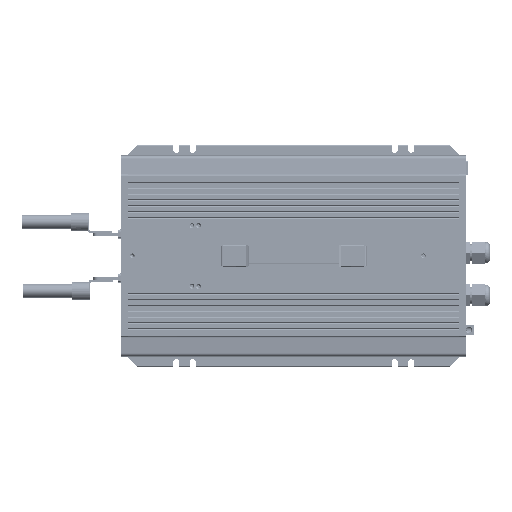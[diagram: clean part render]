
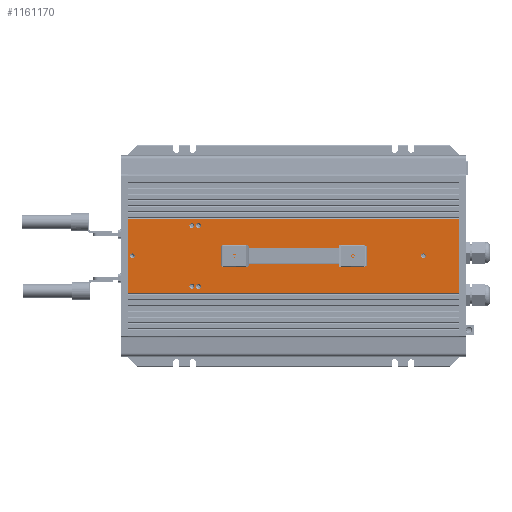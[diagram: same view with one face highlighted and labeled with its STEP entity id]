
A CAD part, top view. The second image highlights one B-rep face of the part: STEP entity #1161170.
In plain terms, the highlighted planar face has unit normal (0, 0, 1) as drawn and (0, 1, 0) by its records, which use the part's own axes.
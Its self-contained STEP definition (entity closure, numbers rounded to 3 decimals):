
#1138450=CARTESIAN_POINT('',(2078.449,98.104,-63.1));
#1138460=VERTEX_POINT('',#1138450);
#1138490=CARTESIAN_POINT('',(1988.299,98.104,-63.1));
#1138500=DIRECTION('',(1.,0.,0.));
#1138510=VECTOR('',#1138500,90.15);
#1138520=LINE('',#1138490,#1138510);
#1138530=CARTESIAN_POINT('',(1988.299,98.104,-63.1));
#1138540=VERTEX_POINT('',#1138530);
#1138550=EDGE_CURVE('',#1138540,#1138460,#1138520,.T.);
#1147430=CARTESIAN_POINT('',(1988.299,98.104,340.9));
#1147440=VERTEX_POINT('',#1147430);
#1147470=CARTESIAN_POINT('',(2078.449,98.104,340.9));
#1147480=DIRECTION('',(-1.,0.,0.));
#1147490=VECTOR('',#1147480,90.15);
#1147500=LINE('',#1147470,#1147490);
#1147510=CARTESIAN_POINT('',(2078.449,98.104,340.9));
#1147520=VERTEX_POINT('',#1147510);
#1147530=EDGE_CURVE('',#1147520,#1147440,#1147500,.T.);
#1159270=CARTESIAN_POINT('',(2030.374,98.104,296.9));
#1159280=VERTEX_POINT('',#1159270);
#1159400=CARTESIAN_POINT('',(2036.374,98.104,296.9));
#1159410=VERTEX_POINT('',#1159400);
#1159440=CARTESIAN_POINT('',(2033.374,98.104,296.9));
#1159450=DIRECTION('',(0.,-1.,0.));
#1159460=DIRECTION('',(1.,0.,0.));
#1159470=AXIS2_PLACEMENT_3D('',#1159440,#1159450,#1159460);
#1159480=CIRCLE('',#1159470,3.);
#1159490=EDGE_CURVE('',#1159410,#1159280,#1159480,.T.);
#1159780=CARTESIAN_POINT('',(2028.721,98.104,122.9));
#1159790=DIRECTION('',(0.,-1.,0.));
#1159800=DIRECTION('',(1.,0.,0.));
#1159810=AXIS2_PLACEMENT_3D('',#1159780,#1159790,#1159800);
#1159820=PLANE('',#1159810);
#1159830=CARTESIAN_POINT('',(2033.376,98.104,210.9));
#1159840=DIRECTION('',(0.,1.,0.));
#1159850=DIRECTION('',(0.,0.,1.));
#1159860=AXIS2_PLACEMENT_3D('',#1159830,#1159840,#1159850);
#1159870=CIRCLE('',#1159860,1.6);
#1159880=CARTESIAN_POINT('',(2033.376,98.104,212.5));
#1159890=VERTEX_POINT('',#1159880);
#1159900=CARTESIAN_POINT('',(2033.376,98.104,209.3));
#1159910=VERTEX_POINT('',#1159900);
#1159920=EDGE_CURVE('',#1159890,#1159910,#1159870,.T.);
#1159930=ORIENTED_EDGE('',*,*,#1159920,.F.);
#1159940=EDGE_CURVE('',#1159910,#1159890,#1159870,.T.);
#1159950=ORIENTED_EDGE('',*,*,#1159940,.F.);
#1159960=EDGE_LOOP('',(#1159950,#1159930));
#1159970=FACE_BOUND('',#1159960,.T.);
#1159980=CARTESIAN_POINT('',(1996.284,98.104,22.949
));
#1159990=DIRECTION('',(0.,1.,0.));
#1160000=DIRECTION('',(1.,0.,0.));
#1160010=AXIS2_PLACEMENT_3D('',#1159980,#1159990,#1160000);
#1160020=CIRCLE('',#1160010,3.);
#1160030=CARTESIAN_POINT('',(1996.284,98.104,19.949
));
#1160040=VERTEX_POINT('',#1160030);
#1160050=CARTESIAN_POINT('',(1993.284,98.104,22.949
));
#1160060=VERTEX_POINT('',#1160050);
#1160070=EDGE_CURVE('',#1160040,#1160060,#1160020,.T.);
#1160080=ORIENTED_EDGE('',*,*,#1160070,.F.);
#1160090=CARTESIAN_POINT('',(1999.284,98.104,22.949
));
#1160100=VERTEX_POINT('',#1160090);
#1160110=EDGE_CURVE('',#1160060,#1160100,#1160020,.T.);
#1160120=ORIENTED_EDGE('',*,*,#1160110,.F.);
#1160130=EDGE_CURVE('',#1160100,#1160040,#1160020,.T.);
#1160140=ORIENTED_EDGE('',*,*,#1160130,.F.);
#1160150=EDGE_LOOP('',(#1160140,#1160120,#1160080));
#1160160=FACE_BOUND('',#1160150,.T.);
#1160170=EDGE_CURVE('',#1159280,#1159410,#1159480,.T.);
#1160180=ORIENTED_EDGE('',*,*,#1160170,.T.);
#1160190=ORIENTED_EDGE('',*,*,#1159490,.T.);
#1160200=EDGE_LOOP('',(#1160190,#1160180));
#1160210=FACE_BOUND('',#1160200,.T.);
#1160220=CARTESIAN_POINT('',(2033.376,98.104,-57.6));
#1160230=DIRECTION('',(0.,-1.,0.));
#1160240=DIRECTION('',(-1.,0.,0.));
#1160250=AXIS2_PLACEMENT_3D('',#1160220,#1160230,#1160240);
#1160260=CIRCLE('',#1160250,3.);
#1160270=CARTESIAN_POINT('',(2030.376,98.104,
-57.6));
#1160280=VERTEX_POINT('',#1160270);
#1160290=CARTESIAN_POINT('',(2036.376,98.104,
-57.6));
#1160300=VERTEX_POINT('',#1160290);
#1160310=EDGE_CURVE('',#1160280,#1160300,#1160260,.T.);
#1160320=ORIENTED_EDGE('',*,*,#1160310,.T.);
#1160330=EDGE_CURVE('',#1160300,#1160280,#1160260,.T.);
#1160340=ORIENTED_EDGE('',*,*,#1160330,.T.);
#1160350=EDGE_LOOP('',(#1160340,#1160320));
#1160360=FACE_BOUND('',#1160350,.T.);
#1160370=CARTESIAN_POINT('',(2070.318,98.104,14.949));
#1160380=DIRECTION('',(0.,1.,0.));
#1160390=DIRECTION('',(1.,0.,0.));
#1160400=AXIS2_PLACEMENT_3D('',#1160370,#1160380,#1160390);
#1160410=CIRCLE('',#1160400,3.);
#1160420=CARTESIAN_POINT('',(2073.318,98.104,14.949));
#1160430=VERTEX_POINT('',#1160420);
#1160440=CARTESIAN_POINT('',(2067.318,98.104,14.949));
#1160450=VERTEX_POINT('',#1160440);
#1160460=EDGE_CURVE('',#1160430,#1160450,#1160410,.T.);
#1160470=ORIENTED_EDGE('',*,*,#1160460,.F.);
#1160480=EDGE_CURVE('',#1160450,#1160430,#1160410,.T.);
#1160490=ORIENTED_EDGE('',*,*,#1160480,.F.);
#1160500=EDGE_LOOP('',(#1160490,#1160470));
#1160510=FACE_BOUND('',#1160500,.T.);
#1160520=CARTESIAN_POINT('',(1996.284,98.104,14.949
));
#1160530=DIRECTION('',(0.,1.,0.));
#1160540=DIRECTION('',(1.,0.,0.));
#1160550=AXIS2_PLACEMENT_3D('',#1160520,#1160530,#1160540);
#1160560=CIRCLE('',#1160550,3.);
#1160570=CARTESIAN_POINT('',(1995.513,98.104,12.05
));
#1160580=VERTEX_POINT('',#1160570);
#1160590=CARTESIAN_POINT('',(1993.284,98.104,14.949
));
#1160600=VERTEX_POINT('',#1160590);
#1160610=EDGE_CURVE('',#1160580,#1160600,#1160560,.T.);
#1160620=ORIENTED_EDGE('',*,*,#1160610,.F.);
#1160630=CARTESIAN_POINT('',(1999.284,98.104,14.949
));
#1160640=VERTEX_POINT('',#1160630);
#1160650=EDGE_CURVE('',#1160600,#1160640,#1160560,.T.);
#1160660=ORIENTED_EDGE('',*,*,#1160650,.F.);
#1160670=EDGE_CURVE('',#1160640,#1160580,#1160560,.T.);
#1160680=ORIENTED_EDGE('',*,*,#1160670,.F.);
#1160690=EDGE_LOOP('',(#1160680,#1160660,#1160620));
#1160700=FACE_BOUND('',#1160690,.T.);
#1160710=CARTESIAN_POINT('',(2070.318,98.104,22.949));
#1160720=DIRECTION('',(0.,1.,0.));
#1160730=DIRECTION('',(1.,0.,0.));
#1160740=AXIS2_PLACEMENT_3D('',#1160710,#1160720,#1160730);
#1160750=CIRCLE('',#1160740,3.);
#1160760=CARTESIAN_POINT('',(2073.318,98.104,22.949));
#1160770=VERTEX_POINT('',#1160760);
#1160780=CARTESIAN_POINT('',(2067.318,98.104,22.949));
#1160790=VERTEX_POINT('',#1160780);
#1160800=EDGE_CURVE('',#1160770,#1160790,#1160750,.T.);
#1160810=ORIENTED_EDGE('',*,*,#1160800,.F.);
#1160820=EDGE_CURVE('',#1160790,#1160770,#1160750,.T.);
#1160830=ORIENTED_EDGE('',*,*,#1160820,.F.);
#1160840=EDGE_LOOP('',(#1160830,#1160810));
#1160850=FACE_BOUND('',#1160840,.T.);
#1160860=CARTESIAN_POINT('',(2033.376,98.104,66.9));
#1160870=DIRECTION('',(0.,1.,0.));
#1160880=DIRECTION('',(0.,0.,1.));
#1160890=AXIS2_PLACEMENT_3D('',#1160860,#1160870,#1160880);
#1160900=CIRCLE('',#1160890,1.6);
#1160910=CARTESIAN_POINT('',(2033.376,98.104,68.5));
#1160920=VERTEX_POINT('',#1160910);
#1160930=CARTESIAN_POINT('',(2033.376,98.104,65.3));
#1160940=VERTEX_POINT('',#1160930);
#1160950=EDGE_CURVE('',#1160920,#1160940,#1160900,.T.);
#1160960=ORIENTED_EDGE('',*,*,#1160950,.F.);
#1160970=EDGE_CURVE('',#1160940,#1160920,#1160900,.T.);
#1160980=ORIENTED_EDGE('',*,*,#1160970,.F.);
#1160990=EDGE_LOOP('',(#1160980,#1160960));
#1161000=FACE_BOUND('',#1160990,.T.);
#1161010=ORIENTED_EDGE('',*,*,#1138550,.F.);
#1161020=CARTESIAN_POINT('',(2078.449,98.104,-63.1));
#1161030=DIRECTION('',(0.,0.,1.));
#1161040=VECTOR('',#1161030,404.);
#1161050=LINE('',#1161020,#1161040);
#1161060=EDGE_CURVE('',#1138460,#1147520,#1161050,.T.);
#1161070=ORIENTED_EDGE('',*,*,#1161060,.F.);
#1161080=ORIENTED_EDGE('',*,*,#1147530,.F.);
#1161090=CARTESIAN_POINT('',(1988.299,98.104,340.9));
#1161100=DIRECTION('',(0.,0.,-1.));
#1161110=VECTOR('',#1161100,404.);
#1161120=LINE('',#1161090,#1161110);
#1161130=EDGE_CURVE('',#1147440,#1138540,#1161120,.T.);
#1161140=ORIENTED_EDGE('',*,*,#1161130,.F.);
#1161150=EDGE_LOOP('',(#1161140,#1161080,#1161070,#1161010));
#1161160=FACE_OUTER_BOUND('',#1161150,.T.);
#1161170=ADVANCED_FACE('',(#1159970,#1160160,#1160210,#1160360,#1160510,
#1160700,#1160850,#1161000,#1161160),#1159820,.F.);
